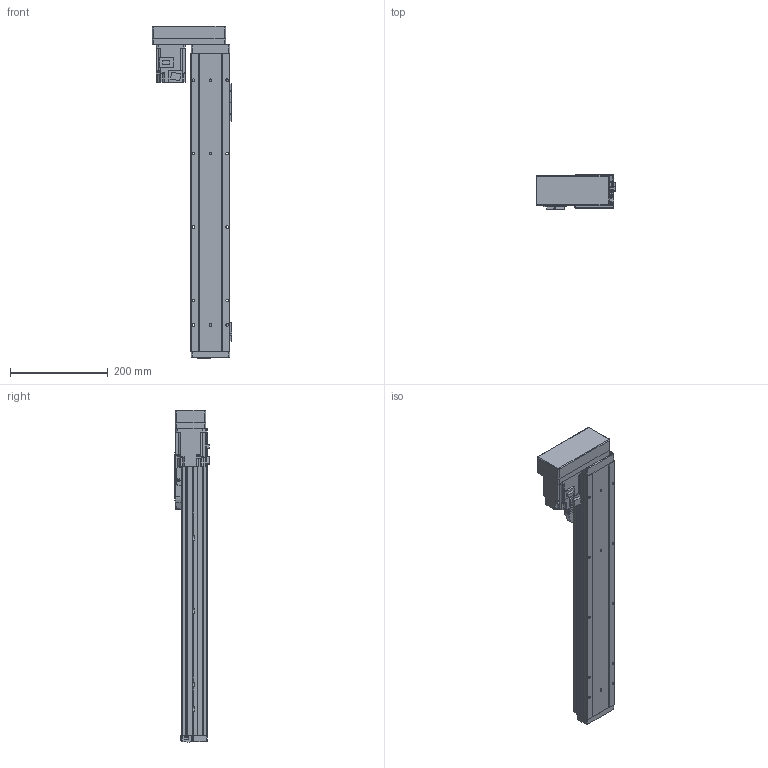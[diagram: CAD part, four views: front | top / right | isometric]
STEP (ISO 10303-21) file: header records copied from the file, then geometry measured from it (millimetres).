
FILE_DESCRIPTION (( 'STEP AP214' ), '1' );
FILE_NAME ('GSH8-450-BR-M20-1.step', '2025-01-07T06:10:22', ( '' ), ( '' ), 'SwSTEP 2.0', 'SolidWorks 2012', '' );
FILE_SCHEMA (( 'AUTOMOTIVE_DESIGN' ));
Length unit declared in the file: millimetre
Products named in the file (5): GSH8-450-BR-M20-1; GSH8-BL-008; HG-KR23_200W_Motor; GSH8-GY-004; GSH8-BL-011-450-M20
Assembly tree (4 placements, depth 2):
  GSH8-450-BR-M20-1
    GSH8-BL-011-450-M20
    GSH8-GY-004
    GSH8-BL-008
    HG-KR23_200W_Motor
Bounding box: 163 x 71.3 x 678.2 mm (x, y, z)
Volume: 1862670.9 mm3; surface area: 441697.5 mm2
Topology: 4 solids, 8 shells, 1112 faces, 2912 edges, 1873 vertices
Faces by surface type: plane 630, cylinder 386, torus 42, cone 26, bspline 24, sphere 4
Entity records: 44196 total; most frequent: CARTESIAN_POINT 10498, DIRECTION 5912, ORIENTED_EDGE 5808, EDGE_CURVE 2904, AXIS2_PLACEMENT_3D 1991, VECTOR 1930, LINE 1930, VERTEX_POINT 1869
